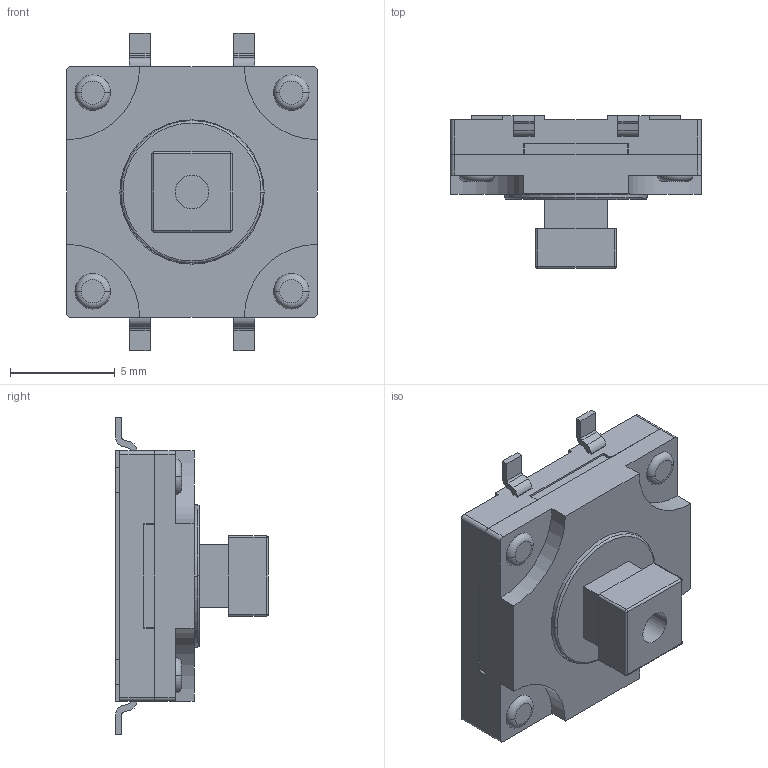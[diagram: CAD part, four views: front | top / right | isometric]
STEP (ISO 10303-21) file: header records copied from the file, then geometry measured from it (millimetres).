
FILE_DESCRIPTION((''),'2;1');
FILE_NAME('JQA1212BF-C0801-G-1-109_ASM','2026-05-13T16:37:26',('Admin'),(''),'CREO PARAMETRIC BY PTC INC, 2019224','CREO PARAMETRIC BY PTC INC, 2019224','');
FILE_SCHEMA(('AUTOMOTIVE_DESIGN { 1 0 10303 214 1 1 1 1 }'));
Length unit declared in the file: millimetre
Products named in the file (3): JQA1212BF-C0801-G-1-109_05; JQA1212BF-C0801-G-1-109_06; JQA1212BF-C0801-G-1-109_ASM
Assembly tree (2 placements, depth 2):
  JQA1212BF-C0801-G-1-109_ASM
    JQA1212BF-C0801-G-1-109_05
    JQA1212BF-C0801-G-1-109_06
Bounding box: 12 x 7.3 x 15.2 mm (x, y, z)
Volume: 536.1 mm3; surface area: 906.9 mm2
Topology: 2 solids, 2 shells, 204 faces, 537 edges, 368 vertices
Faces by surface type: plane 132, cylinder 58, torus 10, sphere 4
Entity records: 8742 total; most frequent: DIRECTION 1111, CARTESIAN_POINT 1105, ORIENTED_EDGE 1052, PRESENTATION_STYLE_ASSIGNMENT 594, STYLED_ITEM 542, CURVE_STYLE 540, EDGE_CURVE 526, VECTOR 393
